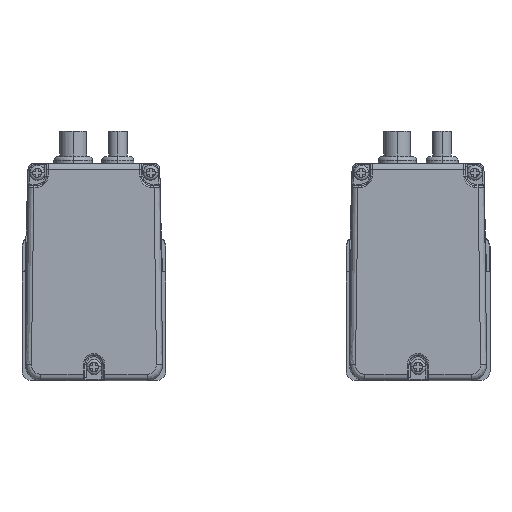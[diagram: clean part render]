
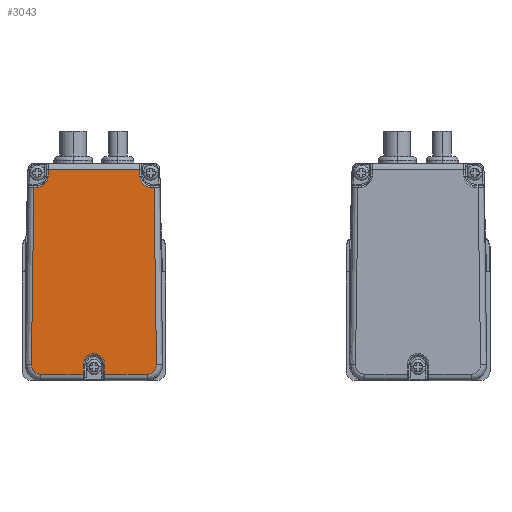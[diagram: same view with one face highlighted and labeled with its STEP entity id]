
A CAD part, left-side view. The second image highlights one B-rep face of the part: STEP entity #3043.
In plain terms, the highlighted planar face has unit normal (-1, 0, 0).
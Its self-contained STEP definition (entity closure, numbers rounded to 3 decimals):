
#3043=ADVANCED_FACE('',(#6088),#6089,.F.);
#6088=FACE_OUTER_BOUND('',#42822,.T.);
#6089=PLANE('',#42823);
#42822=EDGE_LOOP('',(#65880,#65881,#65882,#65883,#65884,#65885,#65886,#65887,#65888,#65889,#65890,#65891,#65892,#65893,#65894,#65895,#65896));
#42823=AXIS2_PLACEMENT_3D('',#65897,#65898,#65899);
#65880=ORIENTED_EDGE('',*,*,#69973,.F.);
#65881=ORIENTED_EDGE('',*,*,#70531,.F.);
#65882=ORIENTED_EDGE('',*,*,#70160,.F.);
#65883=ORIENTED_EDGE('',*,*,#69836,.F.);
#65884=ORIENTED_EDGE('',*,*,#68511,.F.);
#65885=ORIENTED_EDGE('',*,*,#70391,.F.);
#65886=ORIENTED_EDGE('',*,*,#70745,.F.);
#65887=ORIENTED_EDGE('',*,*,#69852,.F.);
#65888=ORIENTED_EDGE('',*,*,#69490,.F.);
#65889=ORIENTED_EDGE('',*,*,#68329,.F.);
#65890=ORIENTED_EDGE('',*,*,#71345,.F.);
#65891=ORIENTED_EDGE('',*,*,#68588,.F.);
#65892=ORIENTED_EDGE('',*,*,#71346,.F.);
#65893=ORIENTED_EDGE('',*,*,#71347,.F.);
#65894=ORIENTED_EDGE('',*,*,#69488,.F.);
#65895=ORIENTED_EDGE('',*,*,#71348,.F.);
#65896=ORIENTED_EDGE('',*,*,#68443,.F.);
#65897=CARTESIAN_POINT('',(60.75,84.221,103.38));
#65898=DIRECTION('',(1.0,0.0,0.0));
#65899=DIRECTION('',(0.0,0.0,-1.0));
#68329=EDGE_CURVE('',#72258,#72261,#72262,.T.);
#68443=EDGE_CURVE('',#72459,#72454,#72461,.T.);
#68511=EDGE_CURVE('',#72578,#72573,#72580,.T.);
#68588=EDGE_CURVE('',#72709,#72705,#72711,.T.);
#69488=EDGE_CURVE('',#74203,#74198,#74205,.T.);
#69490=EDGE_CURVE('',#72261,#74207,#74208,.T.);
#69836=EDGE_CURVE('',#72573,#74718,#74719,.T.);
#69852=EDGE_CURVE('',#74207,#74736,#74741,.T.);
#69973=EDGE_CURVE('',#74918,#72459,#74920,.T.);
#70160=EDGE_CURVE('',#74718,#75183,#75184,.T.);
#70391=EDGE_CURVE('',#75509,#72578,#75511,.T.);
#70531=EDGE_CURVE('',#75183,#74918,#75709,.T.);
#70745=EDGE_CURVE('',#74736,#75509,#75995,.T.);
#71345=EDGE_CURVE('',#72705,#72258,#76727,.T.);
#71346=EDGE_CURVE('',#76728,#72709,#76729,.T.);
#71347=EDGE_CURVE('',#74198,#76728,#76730,.T.);
#71348=EDGE_CURVE('',#72454,#74203,#76731,.T.);
#72258=VERTEX_POINT('',#114791);
#72261=VERTEX_POINT('',#114794);
#72262=ELLIPSE('',#114795,3.5,3.352);
#72454=VERTEX_POINT('',#116043);
#72459=VERTEX_POINT('',#116048);
#72461=ELLIPSE('',#116050,3.5,3.352);
#72573=VERTEX_POINT('',#117292);
#72578=VERTEX_POINT('',#117298);
#72580=LINE('',#117300,#117301);
#72705=VERTEX_POINT('',#117457);
#72709=VERTEX_POINT('',#117462);
#72711=LINE('',#117464,#117465);
#74198=VERTEX_POINT('',#125791);
#74203=VERTEX_POINT('',#125797);
#74205=LINE('',#125799,#125800);
#74207=VERTEX_POINT('',#125802);
#74208=LINE('',#125803,#125804);
#74718=VERTEX_POINT('',#128668);
#74719=LINE('',#128669,#128670);
#74736=VERTEX_POINT('',#129181);
#74741=LINE('',#129187,#129188);
#74918=VERTEX_POINT('',#129545);
#74920=LINE('',#129547,#129548);
#75183=VERTEX_POINT('',#130977);
#75184=ELLIPSE('',#130978,3.,2.873);
#75509=VERTEX_POINT('',#133495);
#75511=ELLIPSE('',#133497,3.5,3.352);
#75709=LINE('',#134821,#134822);
#75995=LINE('',#145078,#145079);
#76727=LINE('',#149385,#149386);
#76728=VERTEX_POINT('',#149387);
#76729=ELLIPSE('',#149388,3.,2.873);
#76730=LINE('',#149389,#149390);
#76731=ELLIPSE('',#149391,3.5,3.352);
#114791=CARTESIAN_POINT('',(60.75,121.513,97.88));
#114794=CARTESIAN_POINT('',(60.75,118.162,101.38));
#114795=AXIS2_PLACEMENT_3D('',#152275,#152276,#152277);
#116043=CARTESIAN_POINT('',(60.75,103.798,45.88));
#116048=CARTESIAN_POINT('',(60.75,100.446,42.38));
#116050=AXIS2_PLACEMENT_3D('',#152452,#152453,#152454);
#117292=CARTESIAN_POINT('',(60.75,85.02,97.88));
#117298=CARTESIAN_POINT('',(60.75,86.083,97.88));
#117300=CARTESIAN_POINT('',(60.75,94.701,97.88));
#117301=VECTOR('',#152530,0.958);
#117457=CARTESIAN_POINT('',(60.75,122.576,97.88));
#117462=CARTESIAN_POINT('',(60.75,123.357,42.425));
#117464=CARTESIAN_POINT('',(60.75,122.947,71.513));
#117465=VECTOR('',#152647,1.);
#125791=CARTESIAN_POINT('',(60.75,107.149,39.38));
#125797=CARTESIAN_POINT('',(60.75,107.149,42.38));
#125799=CARTESIAN_POINT('',(60.75,107.149,56.38));
#125800=VECTOR('',#153884,1.);
#125802=CARTESIAN_POINT('',(60.75,118.162,103.38));
#125803=CARTESIAN_POINT('',(60.75,118.162,86.63));
#125804=VECTOR('',#153885,1.);
#128668=CARTESIAN_POINT('',(60.75,84.239,42.425));
#128669=CARTESIAN_POINT('',(60.75,84.648,71.513));
#128670=VECTOR('',#154312,1.);
#129181=CARTESIAN_POINT('',(60.75,89.434,103.38));
#129187=CARTESIAN_POINT('',(60.75,103.798,103.38));
#129188=VECTOR('',#154331,0.958);
#129545=CARTESIAN_POINT('',(60.75,100.446,39.38));
#129547=CARTESIAN_POINT('',(60.75,100.446,56.38));
#129548=VECTOR('',#154501,1.);
#130977=CARTESIAN_POINT('',(60.75,87.111,39.38));
#130978=AXIS2_PLACEMENT_3D('',#154727,#154728,#154729);
#133495=CARTESIAN_POINT('',(60.75,89.434,101.38));
#133497=AXIS2_PLACEMENT_3D('',#155013,#155014,#155015);
#134821=CARTESIAN_POINT('',(60.75,103.798,39.38));
#134822=VECTOR('',#155170,0.958);
#145078=CARTESIAN_POINT('',(60.75,89.434,86.63));
#145079=VECTOR('',#155407,1.0);
#149385=CARTESIAN_POINT('',(60.75,112.895,97.88));
#149386=VECTOR('',#156020,0.958);
#149387=CARTESIAN_POINT('',(60.75,120.485,39.38));
#149388=AXIS2_PLACEMENT_3D('',#156021,#156022,#156023);
#149389=CARTESIAN_POINT('',(60.75,103.798,39.38));
#149390=VECTOR('',#156024,0.958);
#149391=AXIS2_PLACEMENT_3D('',#156025,#156026,#156027);
#152275=CARTESIAN_POINT('',(60.75,121.513,101.38));
#152276=DIRECTION('',(-1.0,0.0,0.0));
#152277=DIRECTION('',(0.0,0.,1.0));
#152452=CARTESIAN_POINT('',(60.75,103.798,42.38));
#152453=DIRECTION('',(-1.0,0.0,0.0));
#152454=DIRECTION('',(0.0,0.,1.0));
#152530=DIRECTION('',(0.0,-1.0,0.0));
#152647=DIRECTION('',(0.0,-0.014,1.));
#153884=DIRECTION('',(0.0,0.0,-1.0));
#153885=DIRECTION('',(0.0,0.0,1.0));
#154312=DIRECTION('',(0.0,-0.014,-1.));
#154331=DIRECTION('',(0.0,-1.0,0.0));
#154501=DIRECTION('',(0.0,0.0,1.0));
#154727=CARTESIAN_POINT('',(60.75,87.111,42.38));
#154728=DIRECTION('',(1.0,0.0,0.0));
#154729=DIRECTION('',(0.0,0.,-1.0));
#155013=CARTESIAN_POINT('',(60.75,86.083,101.38));
#155014=DIRECTION('',(-1.0,0.0,0.0));
#155015=DIRECTION('',(0.0,0.,1.0));
#155170=DIRECTION('',(0.0,1.0,0.0));
#155407=DIRECTION('',(0.0,0.0,-1.0));
#156020=DIRECTION('',(0.0,-1.0,0.0));
#156021=CARTESIAN_POINT('',(60.75,120.485,42.38));
#156022=DIRECTION('',(1.0,0.0,0.0));
#156023=DIRECTION('',(0.0,0.,-1.0));
#156024=DIRECTION('',(0.0,1.0,0.0));
#156025=CARTESIAN_POINT('',(60.75,103.798,42.38));
#156026=DIRECTION('',(-1.0,0.0,0.0));
#156027=DIRECTION('',(0.0,0.,1.0));
